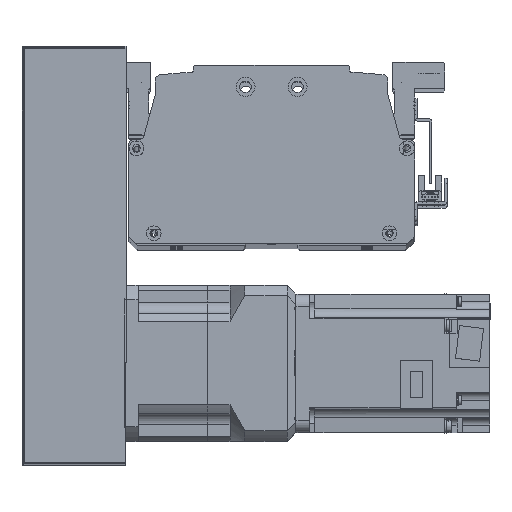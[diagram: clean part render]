
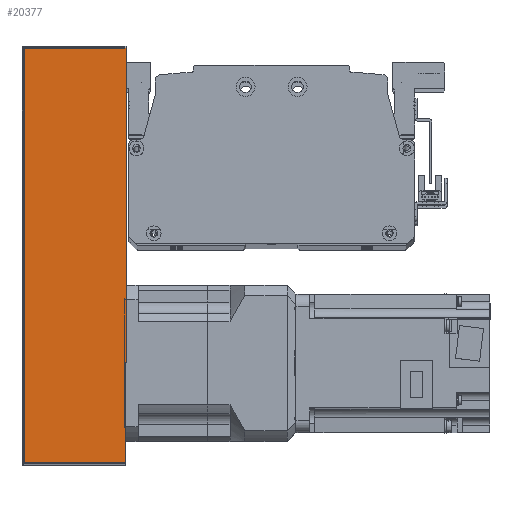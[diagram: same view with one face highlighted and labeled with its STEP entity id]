
A CAD part, top view. The second image highlights one B-rep face of the part: STEP entity #20377.
In plain terms, the highlighted planar face has unit normal (0, 0, 1) as drawn and (0, 1, 0) by its records, which use the part's own axes.
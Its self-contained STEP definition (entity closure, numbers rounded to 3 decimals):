
#605=PLANE('',#22255);
#1733=LINE('',#32805,#3393);
#1755=LINE('',#32898,#3415);
#1757=LINE('',#32908,#3417);
#1759=LINE('',#32911,#3419);
#3393=VECTOR('',#26572,10.);
#3415=VECTOR('',#26692,10.);
#3417=VECTOR('',#26706,10.);
#3419=VECTOR('',#26710,10.);
#5462=FACE_OUTER_BOUND('',#6950,.T.);
#6950=EDGE_LOOP('',(#16556,#16557,#16558,#16559));
#9880=VERTEX_POINT('',#32802);
#9881=VERTEX_POINT('',#32804);
#9902=VERTEX_POINT('',#32892);
#9905=VERTEX_POINT('',#32904);
#12270=EDGE_CURVE('',#9880,#9881,#1733,.T.);
#12318=EDGE_CURVE('',#9902,#9880,#1755,.T.);
#12323=EDGE_CURVE('',#9881,#9905,#1757,.T.);
#12325=EDGE_CURVE('',#9905,#9902,#1759,.T.);
#16556=ORIENTED_EDGE('',*,*,#12318,.F.);
#16557=ORIENTED_EDGE('',*,*,#12325,.F.);
#16558=ORIENTED_EDGE('',*,*,#12323,.F.);
#16559=ORIENTED_EDGE('',*,*,#12270,.F.);
#20377=ADVANCED_FACE('',(#5462),#605,.T.);
#22255=AXIS2_PLACEMENT_3D('',#32917,#26718,#26719);
#26572=DIRECTION('',(-1.,0.,0.));
#26692=DIRECTION('',(0.,0.,1.));
#26706=DIRECTION('',(0.,0.,-1.));
#26710=DIRECTION('',(1.,0.,0.));
#26718=DIRECTION('center_axis',(0.,1.,0.));
#26719=DIRECTION('ref_axis',(-1.,0.,0.));
#32802=CARTESIAN_POINT('',(120.,51.,30.));
#32804=CARTESIAN_POINT('',(-120.,51.,30.));
#32805=CARTESIAN_POINT('',(-121.,51.,30.));
#32892=CARTESIAN_POINT('',(120.,51.,-29.));
#32898=CARTESIAN_POINT('',(120.,51.,0.));
#32904=CARTESIAN_POINT('',(-120.,51.,-29.));
#32908=CARTESIAN_POINT('',(-120.,51.,0.));
#32911=CARTESIAN_POINT('',(60.5,51.,-29.));
#32917=CARTESIAN_POINT('Origin',(121.,51.,0.));
